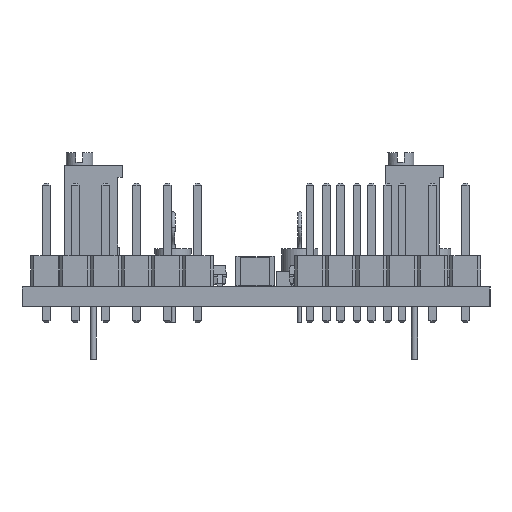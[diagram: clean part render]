
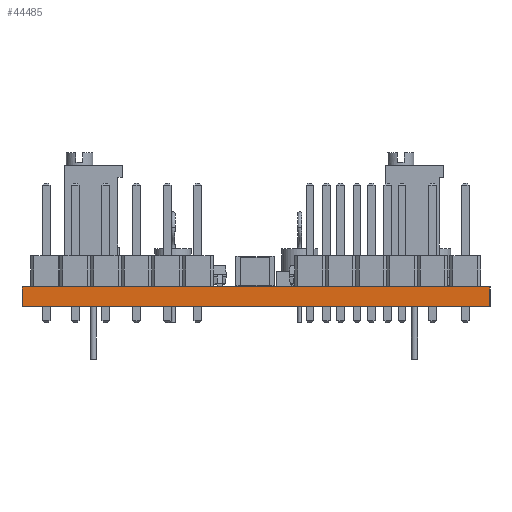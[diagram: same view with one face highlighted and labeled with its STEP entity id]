
A CAD part, left-side view. The second image highlights one B-rep face of the part: STEP entity #44485.
In plain terms, the highlighted planar face has unit normal (-1, 0, 0).
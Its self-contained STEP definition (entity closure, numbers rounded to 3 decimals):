
#42410 = PLANE('',#42411);
#42411 = AXIS2_PLACEMENT_3D('',#42412,#42413,#42414);
#42412 = CARTESIAN_POINT('',(117.875,-115.875,1.6));
#42413 = DIRECTION('',(0.,0.,1.));
#42414 = DIRECTION('',(1.,0.,0.));
#42464 = PLANE('',#42465);
#42465 = AXIS2_PLACEMENT_3D('',#42466,#42467,#42468);
#42466 = CARTESIAN_POINT('',(117.875,-115.875,0.));
#42467 = DIRECTION('',(0.,0.,1.));
#42468 = DIRECTION('',(1.,0.,0.));
#42497 = PLANE('',#42498);
#42498 = AXIS2_PLACEMENT_3D('',#42499,#42500,#42501);
#42499 = CARTESIAN_POINT('',(95.25,-135.25,0.));
#42500 = DIRECTION('',(0.,1.,0.));
#42501 = DIRECTION('',(1.,0.,0.));
#42595 = PLANE('',#42596);
#42596 = AXIS2_PLACEMENT_3D('',#42597,#42598,#42599);
#42597 = CARTESIAN_POINT('',(140.5,-96.5,0.));
#42598 = DIRECTION('',(0.,-1.,0.));
#42599 = DIRECTION('',(-1.,0.,0.));
#42634 = VERTEX_POINT('',#42635);
#42635 = CARTESIAN_POINT('',(95.25,-96.5,0.));
#42656 = EDGE_CURVE('',#42634,#42657,#42659,.T.);
#42657 = VERTEX_POINT('',#42658);
#42658 = CARTESIAN_POINT('',(95.25,-135.25,0.));
#42659 = SURFACE_CURVE('',#42660,(#42664,#42671),.PCURVE_S1.);
#42660 = LINE('',#42661,#42662);
#42661 = CARTESIAN_POINT('',(95.25,-96.5,0.));
#42662 = VECTOR('',#42663,1.);
#42663 = DIRECTION('',(0.,-1.,0.));
#42664 = PCURVE('',#42464,#42665);
#42665 = DEFINITIONAL_REPRESENTATION('',(#42666),#42670);
#42666 = LINE('',#42667,#42668);
#42667 = CARTESIAN_POINT('',(-22.625,19.375));
#42668 = VECTOR('',#42669,1.);
#42669 = DIRECTION('',(0.,-1.));
#42670 = ( GEOMETRIC_REPRESENTATION_CONTEXT(2) 
PARAMETRIC_REPRESENTATION_CONTEXT() REPRESENTATION_CONTEXT('2D SPACE',''
  ) );
#42671 = PCURVE('',#42672,#42677);
#42672 = PLANE('',#42673);
#42673 = AXIS2_PLACEMENT_3D('',#42674,#42675,#42676);
#42674 = CARTESIAN_POINT('',(95.25,-96.5,0.));
#42675 = DIRECTION('',(1.,0.,0.));
#42676 = DIRECTION('',(0.,-1.,0.));
#42677 = DEFINITIONAL_REPRESENTATION('',(#42678),#42682);
#42678 = LINE('',#42679,#42680);
#42679 = CARTESIAN_POINT('',(0.,0.));
#42680 = VECTOR('',#42681,1.);
#42681 = DIRECTION('',(1.,0.));
#42682 = ( GEOMETRIC_REPRESENTATION_CONTEXT(2) 
PARAMETRIC_REPRESENTATION_CONTEXT() REPRESENTATION_CONTEXT('2D SPACE',''
  ) );
#43611 = VERTEX_POINT('',#43612);
#43612 = CARTESIAN_POINT('',(95.25,-96.5,1.6));
#43633 = EDGE_CURVE('',#43611,#43634,#43636,.T.);
#43634 = VERTEX_POINT('',#43635);
#43635 = CARTESIAN_POINT('',(95.25,-135.25,1.6));
#43636 = SURFACE_CURVE('',#43637,(#43641,#43648),.PCURVE_S1.);
#43637 = LINE('',#43638,#43639);
#43638 = CARTESIAN_POINT('',(95.25,-96.5,1.6));
#43639 = VECTOR('',#43640,1.);
#43640 = DIRECTION('',(0.,-1.,0.));
#43641 = PCURVE('',#42410,#43642);
#43642 = DEFINITIONAL_REPRESENTATION('',(#43643),#43647);
#43643 = LINE('',#43644,#43645);
#43644 = CARTESIAN_POINT('',(-22.625,19.375));
#43645 = VECTOR('',#43646,1.);
#43646 = DIRECTION('',(0.,-1.));
#43647 = ( GEOMETRIC_REPRESENTATION_CONTEXT(2) 
PARAMETRIC_REPRESENTATION_CONTEXT() REPRESENTATION_CONTEXT('2D SPACE',''
  ) );
#43648 = PCURVE('',#42672,#43649);
#43649 = DEFINITIONAL_REPRESENTATION('',(#43650),#43654);
#43650 = LINE('',#43651,#43652);
#43651 = CARTESIAN_POINT('',(0.,-1.6));
#43652 = VECTOR('',#43653,1.);
#43653 = DIRECTION('',(1.,0.));
#43654 = ( GEOMETRIC_REPRESENTATION_CONTEXT(2) 
PARAMETRIC_REPRESENTATION_CONTEXT() REPRESENTATION_CONTEXT('2D SPACE',''
  ) );
#44435 = EDGE_CURVE('',#42657,#43634,#44436,.T.);
#44436 = SURFACE_CURVE('',#44437,(#44441,#44448),.PCURVE_S1.);
#44437 = LINE('',#44438,#44439);
#44438 = CARTESIAN_POINT('',(95.25,-135.25,0.));
#44439 = VECTOR('',#44440,1.);
#44440 = DIRECTION('',(0.,0.,1.));
#44441 = PCURVE('',#42497,#44442);
#44442 = DEFINITIONAL_REPRESENTATION('',(#44443),#44447);
#44443 = LINE('',#44444,#44445);
#44444 = CARTESIAN_POINT('',(0.,0.));
#44445 = VECTOR('',#44446,1.);
#44446 = DIRECTION('',(0.,-1.));
#44447 = ( GEOMETRIC_REPRESENTATION_CONTEXT(2) 
PARAMETRIC_REPRESENTATION_CONTEXT() REPRESENTATION_CONTEXT('2D SPACE',''
  ) );
#44448 = PCURVE('',#42672,#44449);
#44449 = DEFINITIONAL_REPRESENTATION('',(#44450),#44454);
#44450 = LINE('',#44451,#44452);
#44451 = CARTESIAN_POINT('',(38.75,0.));
#44452 = VECTOR('',#44453,1.);
#44453 = DIRECTION('',(0.,-1.));
#44454 = ( GEOMETRIC_REPRESENTATION_CONTEXT(2) 
PARAMETRIC_REPRESENTATION_CONTEXT() REPRESENTATION_CONTEXT('2D SPACE',''
  ) );
#44464 = EDGE_CURVE('',#42634,#43611,#44465,.T.);
#44465 = SURFACE_CURVE('',#44466,(#44470,#44477),.PCURVE_S1.);
#44466 = LINE('',#44467,#44468);
#44467 = CARTESIAN_POINT('',(95.25,-96.5,0.));
#44468 = VECTOR('',#44469,1.);
#44469 = DIRECTION('',(0.,0.,1.));
#44470 = PCURVE('',#42595,#44471);
#44471 = DEFINITIONAL_REPRESENTATION('',(#44472),#44476);
#44472 = LINE('',#44473,#44474);
#44473 = CARTESIAN_POINT('',(45.25,0.));
#44474 = VECTOR('',#44475,1.);
#44475 = DIRECTION('',(0.,-1.));
#44476 = ( GEOMETRIC_REPRESENTATION_CONTEXT(2) 
PARAMETRIC_REPRESENTATION_CONTEXT() REPRESENTATION_CONTEXT('2D SPACE',''
  ) );
#44477 = PCURVE('',#42672,#44478);
#44478 = DEFINITIONAL_REPRESENTATION('',(#44479),#44483);
#44479 = LINE('',#44480,#44481);
#44480 = CARTESIAN_POINT('',(0.,0.));
#44481 = VECTOR('',#44482,1.);
#44482 = DIRECTION('',(0.,-1.));
#44483 = ( GEOMETRIC_REPRESENTATION_CONTEXT(2) 
PARAMETRIC_REPRESENTATION_CONTEXT() REPRESENTATION_CONTEXT('2D SPACE',''
  ) );
#44485 = ADVANCED_FACE('',(#44486),#42672,.F.);
#44486 = FACE_BOUND('',#44487,.F.);
#44487 = EDGE_LOOP('',(#44488,#44489,#44490,#44491));
#44488 = ORIENTED_EDGE('',*,*,#44464,.T.);
#44489 = ORIENTED_EDGE('',*,*,#43633,.T.);
#44490 = ORIENTED_EDGE('',*,*,#44435,.F.);
#44491 = ORIENTED_EDGE('',*,*,#42656,.F.);
